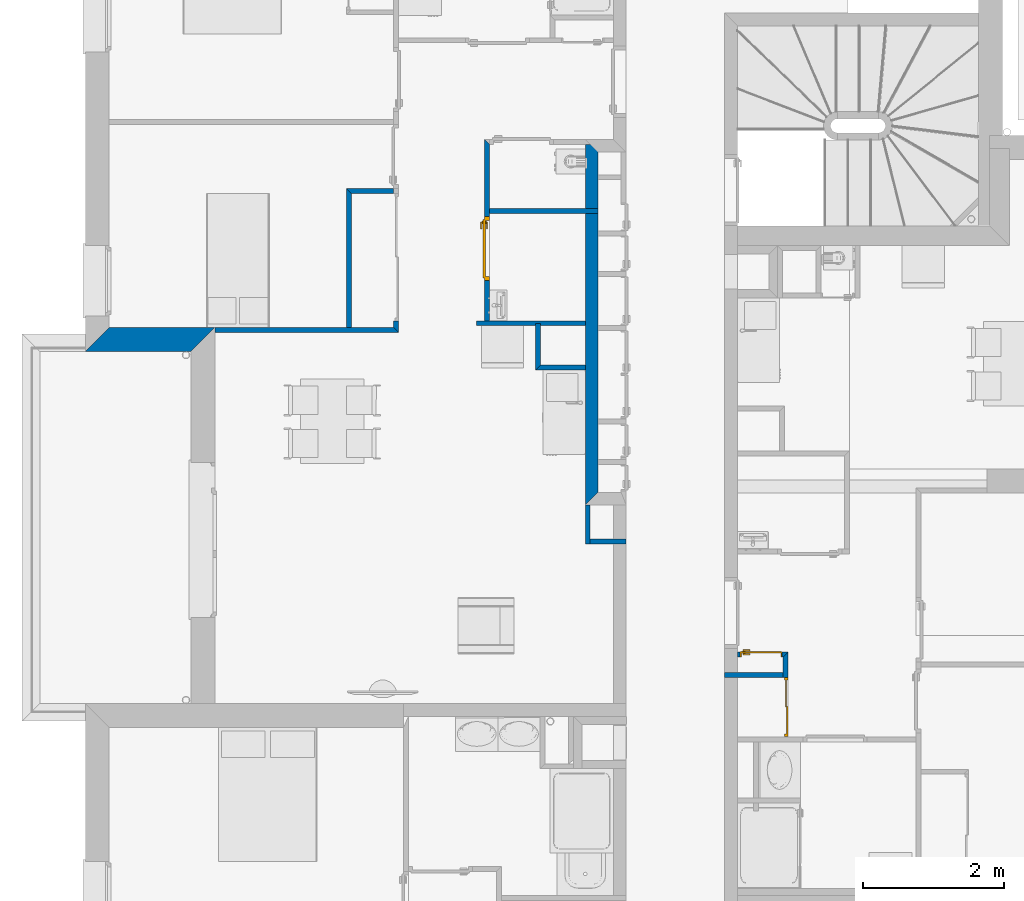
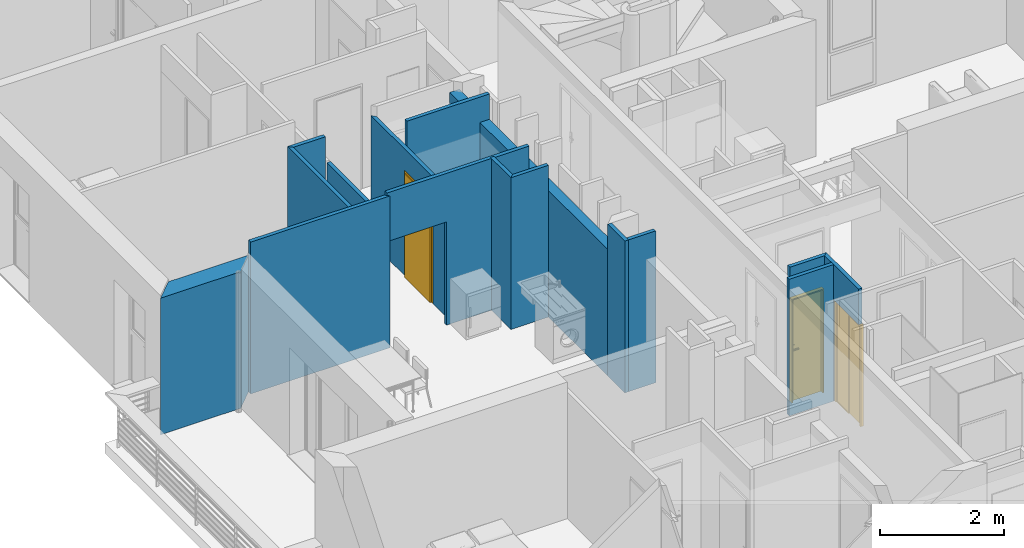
# One storey, part 21 of 164: 16 walls, 3 doors, 5 openings.
"""IFC2X3 building model written with IfcOpenShell, lengths in millimetres."""

import ifcopenshell
import ifcopenshell.guid

model = None  # the IFC model being written
_history = None  # IfcOwnerHistory: only IFC2X3 demands one
_inside = {}  # id of a spatial element -> (the spatial element, [elements in it])
_under = {}  # id of a project, library or spatial element -> (it, [spatial elements below it])
_declared = {}  # id of a project -> (the project, [libraries it declares])
_typed = {}  # id of a type object -> (the type object, [elements of that type])
_made_of = {}  # id of a material, layer set ... -> (it, [elements and type objects made of it])


def new_model(schema):
    """Start an empty IFC model of exactly this schema.

    Asked for "IFC4X3", IfcOpenShell would pick the latest addendum, in which some entities
    have other attributes; the version numbers below select the first issue.
    IFC2X3 requires an IfcOwnerHistory on every rooted entity: one is made here for all.
    """
    global model, _history
    if schema == "IFC4X3":
        model = ifcopenshell.file(schema_version=(4, 3, 0, 0))
    else:
        model = ifcopenshell.file(schema=schema)
    _inside.clear()
    _under.clear()
    _declared.clear()
    _typed.clear()
    _made_of.clear()
    _history = None
    if model.schema == "IFC2X3":
        org = make("IfcOrganization", Name="unknown")
        user = make(
            "IfcPersonAndOrganization",
            ThePerson=make("IfcPerson", FamilyName="unknown"),
            TheOrganization=org,
        )
        app = make(
            "IfcApplication",
            ApplicationDeveloper=org,
            Version="unknown",
            ApplicationFullName="unknown",
            ApplicationIdentifier="unknown",
        )
        _history = make(
            "IfcOwnerHistory",
            OwningUser=user,
            OwningApplication=app,
            ChangeAction="ADDED",
            CreationDate=0,
        )
    return model


def make(cls, **values):
    """One entity of the class cls with the attributes given. An attribute that is None is left unset."""
    return model.create_entity(
        cls, **{name: value for name, value in values.items() if value is not None}
    )


def entity(cls, *values):
    """Any entity or typed value of the class cls, its attributes in the order of the schema. None: left unset."""
    e = model.create_entity(cls)
    for i, value in enumerate(values):
        if value is not None:
            e[i] = value
    return e


def rooted(cls, **values):
    """An entity with a GlobalId (a new one), such as an element, a storey or a relation."""
    return make(cls, GlobalId=ifcopenshell.guid.new(), OwnerHistory=_history, **values)


def si_unit(unit_type, name, prefix=None):
    """IfcSIUnit, for example si_unit("LENGTHUNIT", "METRE", prefix="MILLI")."""
    return make("IfcSIUnit", UnitType=unit_type, Prefix=prefix, Name=name)


def converted_unit(unit_type, name, factor, base, dimensions=None, offset=None):
    """IfcConversionBasedUnit, such as the inch: factor (a typed value) times the base unit."""
    return make(
        "IfcConversionBasedUnit"
        if offset is None
        else "IfcConversionBasedUnitWithOffset",
        ConversionOffset=offset,
        Dimensions=None
        if dimensions is None
        else entity("IfcDimensionalExponents", *dimensions),
        UnitType=unit_type,
        Name=name,
        ConversionFactor=make(
            "IfcMeasureWithUnit", ValueComponent=factor, UnitComponent=base
        ),
    )


def derived_unit(unit_type, elements):
    """IfcDerivedUnit: a product of units, each with its exponent."""
    return make(
        "IfcDerivedUnit",
        Elements=[
            make("IfcDerivedUnitElement", Unit=unit, Exponent=power)
            for unit, power in elements
        ],
        UnitType=unit_type,
    )


def money_unit(currency):
    """IfcMonetaryUnit."""
    return make("IfcMonetaryUnit", Currency=currency)


def assignment(units):
    """IfcUnitAssignment: the units of a project."""
    return None if units is None else make("IfcUnitAssignment", Units=units)


def point(xyz):
    """IfcCartesianPoint."""
    return None if xyz is None else make("IfcCartesianPoint", Coordinates=xyz)


def direction(xyz):
    """IfcDirection."""
    return None if xyz is None else make("IfcDirection", DirectionRatios=xyz)


def frame(location, z_axis=None, x_axis=None):
    """IfcAxis2Placement3D, a coordinate frame: its origin and axes. An axis left out is left unset."""
    return make(
        "IfcAxis2Placement3D",
        Location=point(location),
        Axis=direction(z_axis),
        RefDirection=direction(x_axis),
    )


def frame_2d(location, x_axis=None):
    """IfcAxis2Placement2D, a coordinate frame in the plane: its origin and x axis."""
    return make(
        "IfcAxis2Placement2D", Location=point(location), RefDirection=direction(x_axis)
    )


def origin_with_axes():
    """The frame at (0, 0, 0) with the z axis (0, 0, 1) and the x axis (1, 0, 0) written out."""
    return frame((0.0, 0.0, 0.0), z_axis=(0.0, 0.0, 1.0), x_axis=(1.0, 0.0, 0.0))


def origin_2d_with_axis():
    """The frame at (0, 0) in the plane with the x axis (1, 0) written out."""
    return frame_2d((0.0, 0.0), x_axis=(1.0, 0.0))


def place(relative_to, where):
    """IfcLocalPlacement: puts the frame where relative to a parent placement (None: the world)."""
    return make(
        "IfcLocalPlacement", PlacementRelTo=relative_to, RelativePlacement=where
    )


def context(
    kind, dimensions, precision=None, world=None, true_north=None, identifier=None
):
    """IfcGeometricRepresentationContext, for example the 3D "Model" context."""
    return make(
        "IfcGeometricRepresentationContext",
        ContextIdentifier=identifier,
        ContextType=kind,
        CoordinateSpaceDimension=dimensions,
        Precision=precision,
        WorldCoordinateSystem=world,
        TrueNorth=true_north,
    )


def subcontext(parent, identifier, kind, view, scale=None):
    """IfcGeometricRepresentationSubContext, for example "Body" below "Model"."""
    return make(
        "IfcGeometricRepresentationSubContext",
        ContextIdentifier=identifier,
        ContextType=kind,
        ParentContext=parent,
        TargetScale=scale,
        TargetView=view,
    )


def project(units=None, contexts=None):
    """IfcProject with its units and contexts."""
    return rooted(
        "IfcProject",
        Name="project",
        RepresentationContexts=contexts,
        UnitsInContext=assignment(units),
    )


def spatial(cls, under=None, at=None, **own):
    """A site, building, storey or space (cls), placed at a placement, below another one or the project."""
    s = rooted(cls, ObjectPlacement=at, **own)
    if under is not None:
        _under.setdefault(under.id(), (under, []))[1].append(s)
    return s


def polyline(points):
    """IfcPolyline through the points."""
    return make("IfcPolyline", Points=[point(p) for p in points])


def profile(cls, at=None, kind="AREA", **sizes):
    """A parametric profile (cls). Its sizes go by their IFC names, for example OverallWidth=200.0."""
    return make(cls, ProfileType=kind, Position=at, **sizes)


def rectangle(**sizes):
    """IfcRectangleProfileDef."""
    return profile("IfcRectangleProfileDef", **sizes)


def outline(outer, holes=None, kind="AREA"):
    """IfcArbitraryClosedProfileDef: a profile drawn as a closed curve; with holes, ...WithVoids."""
    if holes is None:
        return make("IfcArbitraryClosedProfileDef", ProfileType=kind, OuterCurve=outer)
    return make(
        "IfcArbitraryProfileDefWithVoids",
        ProfileType=kind,
        OuterCurve=outer,
        InnerCurves=holes,
    )


def extrude(swept, where, along, depth):
    """IfcExtrudedAreaSolid: the profile swept, set in the frame where, extruded along a direction by depth."""
    return make(
        "IfcExtrudedAreaSolid",
        SweptArea=swept,
        Position=where,
        ExtrudedDirection=direction(along),
        Depth=depth,
    )


def faces_of(points, faces, orient=None, outer=None):
    """IfcFace entities. A face is a list of loops; a loop is a list of indices into points, from 0.

    orient and outer hold one flag for each loop. By default every Orientation is true, the
    first loop of a face is its IfcFaceOuterBound and the others are IfcFaceBound.
    """
    made = []
    for i, loops in enumerate(faces):
        bounds = []
        for j, loop in enumerate(loops):
            is_outer = j == 0 if outer is None else outer[i][j]
            bounds.append(
                make(
                    "IfcFaceOuterBound" if is_outer else "IfcFaceBound",
                    Bound=make("IfcPolyLoop", Polygon=[points[k] for k in loop]),
                    Orientation=True if orient is None else orient[i][j],
                )
            )
        made.append(make("IfcFace", Bounds=bounds))
    return made


def open_shell(faces, orient=None, outer=None):
    """The faces of one IfcOpenShell. surface_model builds it on its shared points."""
    return ("IfcOpenShell", faces, orient, outer)


def faceted_brep(points, faces, orient=None, outer=None, voids=None):
    """IfcFacetedBrep: a solid bounded by flat faces; with voids (closed shells), ...WithVoids."""
    shared = [point(p) for p in points]
    hull = make("IfcClosedShell", CfsFaces=faces_of(shared, faces, orient, outer))
    if voids is None:
        return make("IfcFacetedBrep", Outer=hull)
    return make(
        "IfcFacetedBrepWithVoids",
        Outer=hull,
        Voids=[
            make(cls, CfsFaces=faces_of(shared, fs, o, b)) for cls, fs, o, b in voids
        ],
    )


def surface_model(cls, points, shells):
    """IfcFaceBasedSurfaceModel or IfcShellBasedSurfaceModel (cls): surfaces that need not close."""
    shared = [point(p) for p in points]
    made = [make(c, CfsFaces=faces_of(shared, fs, o, b)) for c, fs, o, b in shells]
    if cls == "IfcFaceBasedSurfaceModel":
        return make(cls, FbsmFaces=made)
    return make(cls, SbsmBoundary=made)


def shape(context_of_items, identifier, shape_type, items):
    """IfcShapeRepresentation: the items that make up one representation, for example the "Body"."""
    return make(
        "IfcShapeRepresentation",
        ContextOfItems=context_of_items,
        RepresentationIdentifier=identifier,
        RepresentationType=shape_type,
        Items=items,
    )


def source(mapping_origin, context_of_items, identifier, shape_type, items):
    """IfcRepresentationMap: a shape defined once, which mapped items show again and again."""
    return make(
        "IfcRepresentationMap",
        MappingOrigin=mapping_origin,
        MappedRepresentation=shape(context_of_items, identifier, shape_type, items),
    )


def transform(
    local_origin,
    x_axis=None,
    y_axis=None,
    z_axis=None,
    scale=None,
    scale2=None,
    scale3=None,
    uniform=True,
):
    """IfcCartesianTransformationOperator3D, or its non-uniform kind. x_axis, y_axis, z_axis: its Axis1, 2, 3."""
    if uniform:
        return make(
            "IfcCartesianTransformationOperator3D",
            Axis1=direction(x_axis),
            Axis2=direction(y_axis),
            LocalOrigin=point(local_origin),
            Scale=scale,
            Axis3=direction(z_axis),
        )
    return make(
        "IfcCartesianTransformationOperator3DnonUniform",
        Axis1=direction(x_axis),
        Axis2=direction(y_axis),
        LocalOrigin=point(local_origin),
        Scale=scale,
        Axis3=direction(z_axis),
        Scale2=scale2,
        Scale3=scale3,
    )


def mapped(mapping_source, mapping_target):
    """IfcMappedItem: shows the shape of a source again, moved by a transform."""
    return make(
        "IfcMappedItem", MappingSource=mapping_source, MappingTarget=mapping_target
    )


def material(Name=None, Category=None):
    """IfcMaterial."""
    return make("IfcMaterial", Name=Name, Category=Category)


def layer(
    of_material, thickness, ventilated=None, Name=None, Category=None, Priority=None
):
    """IfcMaterialLayer: one layer of a wall or slab, of a material (None: an air gap)."""
    return make(
        "IfcMaterialLayer",
        Material=of_material,
        LayerThickness=thickness,
        IsVentilated=ventilated,
        Name=Name,
        Category=Category,
        Priority=Priority,
    )


def layer_set(layers, Name=None):
    """IfcMaterialLayerSet."""
    return make("IfcMaterialLayerSet", MaterialLayers=layers, LayerSetName=Name)


def layer_usage(for_layer_set, set_direction, sense, offset, extent=None):
    """IfcMaterialLayerSetUsage: how a layer set lies in its element."""
    return make(
        "IfcMaterialLayerSetUsage",
        ForLayerSet=for_layer_set,
        LayerSetDirection=set_direction,
        DirectionSense=sense,
        OffsetFromReferenceLine=offset,
        ReferenceExtent=extent,
    )


def made_of(thing, what):
    """Note that an element or type object is made of a material, layer set ...; save() writes the relation."""
    if what is not None:
        _made_of.setdefault(what.id(), (what, []))[1].append(thing)
    return thing


def type_object(cls, material=None, **own):
    """A type object (cls), such as IfcWallType, which elements share."""
    return made_of(rooted(cls, **own), material)


def element(
    cls,
    number,
    at=None,
    inside=None,
    cuts=None,
    type_object=None,
    material=None,
    context=None,
    identifier="Body",
    shape_type=None,
    held_by="IfcProductDefinitionShape",
    body=None,
    shapes=None,
    **own,
):
    """One element of the class cls, such as IfcWall. Its Tag is "e" and its number.

    at: its placement. inside: the storey or other place that contains it. cuts: it is an
    opening in that element (IfcRelVoidsElement). A single representation is given by context,
    identifier, shape_type and body (its items); several are given by shapes. held_by: the class
    of the entity that holds the representations. save() writes the other relations.
    """
    e = rooted(cls, Tag="e%d" % number, ObjectPlacement=at, **own)
    if body is not None:
        shapes = [shape(context, identifier, shape_type, body)]
    if shapes is not None:
        e.Representation = make(held_by, Representations=shapes)
    if inside is not None:
        _inside.setdefault(inside.id(), (inside, []))[1].append(e)
    if cuts is not None:
        rooted(
            "IfcRelVoidsElement", RelatingBuildingElement=cuts, RelatedOpeningElement=e
        )
    if type_object is not None:
        _typed.setdefault(type_object.id(), (type_object, []))[1].append(e)
    return made_of(e, material)


def fill(opening, filler):
    """IfcRelFillsElement: the door or window that sits in an opening."""
    return rooted(
        "IfcRelFillsElement",
        RelatingOpeningElement=opening,
        RelatedBuildingElement=filler,
    )


def aggregate(whole, parts):
    """IfcRelAggregates: a whole, such as a stair, and the parts it consists of."""
    return rooted("IfcRelAggregates", RelatingObject=whole, RelatedObjects=parts)


def save(model, path):
    """Write the relations noted so far, then the file.

    IfcRelAggregates (storeys below a building ...), IfcRelContainedInSpatialStructure (elements
    in a storey), IfcRelDefinesByType, IfcRelAssociatesMaterial and IfcRelDeclares: one each for
    every whole, place, type object, material and project.
    """
    for whole, parts in _under.values():
        aggregate(whole, parts)
    for where, things in _inside.values():
        rooted(
            "IfcRelContainedInSpatialStructure",
            RelatedElements=things,
            RelatingStructure=where,
        )
    for kind, things in _typed.values():
        rooted("IfcRelDefinesByType", RelatedObjects=things, RelatingType=kind)
    for what, things in _made_of.values():
        rooted("IfcRelAssociatesMaterial", RelatedObjects=things, RelatingMaterial=what)
    for by, libraries in _declared.values():
        rooted("IfcRelDeclares", RelatingContext=by, RelatedDefinitions=libraries)
    model.write(path)


model = new_model("IFC2X3")

# Units and contexts
model_context = context("Model", 3, precision=0.01, world=origin_with_axes(), true_north=direction((0.0, 1.0)))
body_context = subcontext(model_context, "Body", "Model", "MODEL_VIEW")
ifc_project = project(units=[si_unit("LENGTHUNIT", "METRE", prefix="MILLI"), si_unit("AREAUNIT", "SQUARE_METRE"), si_unit("VOLUMEUNIT", "CUBIC_METRE"), converted_unit("PLANEANGLEUNIT", "DEGREE", entity("IfcPlaneAngleMeasure", 0.0174532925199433), si_unit("PLANEANGLEUNIT", "RADIAN"), dimensions=[0, 0, 0, 0, 0, 0, 0]), money_unit("USD"), converted_unit("TIMEUNIT", "Year", entity("IfcTimeMeasure", 31557600.0), si_unit("TIMEUNIT", "SECOND"), dimensions=[0, 0, 1, 0, 0, 0, 0]), si_unit("MASSUNIT", "GRAM", prefix="KILO"), si_unit("THERMODYNAMICTEMPERATUREUNIT", "DEGREE_CELSIUS"), si_unit("LUMINOUSINTENSITYUNIT", "LUMEN"), si_unit("ENERGYUNIT", "JOULE", prefix="MEGA"), derived_unit("THERMALCONDUCTANCEUNIT", [(si_unit("POWERUNIT", "WATT"), 1), (si_unit("LENGTHUNIT", "METRE"), -1), (si_unit("THERMODYNAMICTEMPERATUREUNIT", "KELVIN"), -1)]), derived_unit("SPECIFICHEATCAPACITYUNIT", [(si_unit("ENERGYUNIT", "JOULE"), 1), (si_unit("MASSUNIT", "GRAM", prefix="KILO"), -1), (si_unit("THERMODYNAMICTEMPERATUREUNIT", "KELVIN"), -1)]), derived_unit("MASSDENSITYUNIT", [(si_unit("MASSUNIT", "GRAM", prefix="KILO"), 1), (si_unit("VOLUMEUNIT", "CUBIC_METRE"), -1)])], contexts=[model_context])

# Site, building, storey
site_placement = place(None, origin_with_axes())
site = spatial("IfcSite", under=ifc_project, at=site_placement, Name="Site", CompositionType="ELEMENT")
building_placement = place(site_placement, origin_with_axes())
building = spatial("IfcBuilding", under=site, at=building_placement, Name="Bâtiment", CompositionType="ELEMENT")
storey_placement = place(building_placement, frame((0.0, 0.0, 5750.0), z_axis=(0.0, 0.0, 1.0), x_axis=(1.0, 0.0, 0.0)))
storey = spatial("IfcBuildingStorey", under=building, at=storey_placement, Name="Etage1", CompositionType="ELEMENT", Elevation=5750.0)

# Walls
ifc_material_1 = material(Name="Parpaing 314940890")
ifc_layer_1 = layer(ifc_material_1, 180.0, ventilated="UNKNOWN")
ifc_layer_set_1 = layer_set([ifc_layer_1], Name="Beton  18 0018356637")
ifc_layer_usage_1 = layer_usage(ifc_layer_set_1, "AXIS2", "POSITIVE", 0.0)
wall_type_1 = type_object("IfcWallType", Name="Beton  18 0018356637 180", PredefinedType="NOTDEFINED")
wall_1_placement = place(storey_placement, frame((2223732.400120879, -636007.2981221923, 0.0), z_axis=(0.0, 0.0, 1.0), x_axis=(0.0, -1.0, 0.0)))
element("IfcWallStandardCase", 1, at=wall_1_placement, inside=storey, type_object=wall_type_1, material=ifc_layer_usage_1, Name="Mur-142", context=body_context, shape_type="SweptSolid", body=[
    extrude(outline(polyline([(69.99998401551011, 0.0), (5189.440402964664, 0.0), (5009.440853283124, 179.99999999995), (69.99998897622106, 179.99999999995), (69.99998401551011, 0.0)])), origin_with_axes(), (0.0, 0.0, 1.0), 2500.000000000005),
])
ifc_material_2 = material(Name="Hachure solide 268963992")
ifc_layer_2 = layer(ifc_material_2, 70.0, ventilated="UNKNOWN")
ifc_layer_set_2 = layer_set([ifc_layer_2], Name="Cloison 70 0826278243")
ifc_layer_usage_2 = layer_usage(ifc_layer_set_2, "AXIS2", "POSITIVE", -70.0)
wall_type_2 = type_object("IfcWallType", Name="Cloison 70 0826278243 70", PredefinedType="NOTDEFINED")
wall_2_placement = place(storey_placement, frame((2223912.399953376, -637057.2977132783, 0.0), z_axis=(0.0, 0.0, 1.0), x_axis=(-0.9999999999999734, -2.308105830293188e-07, 0.0)))
element("IfcWallStandardCase", 2, at=wall_2_placement, inside=storey, type_object=wall_type_2, material=ifc_layer_usage_2, Name="Mur-149", context=body_context, shape_type="SweptSolid", body=[
    extrude(outline(polyline([(0.0, -69.99999999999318), (1540.000939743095, -69.99999999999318), (1540.000972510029, 0.0), (0.0, 0.0), (0.0, -69.99999999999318)])), origin_with_axes(), (0.0, 0.0, 1.0), 3000.0),
])
ifc_layer_usage_3 = layer_usage(ifc_layer_set_2, "AXIS2", "NEGATIVE", 70.0)
wall_3_placement = place(storey_placement, frame((2223732.39994469, -639210.3527972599, 0.0), z_axis=(0.0, 0.0, 1.0), x_axis=(-1.0, 0.0, 0.0)))
element("IfcWallStandardCase", 3, at=wall_3_placement, inside=storey, type_object=wall_type_2, material=ifc_layer_usage_3, Name="Mur-149", context=body_context, shape_type="SweptSolid", body=[
    extrude(outline(polyline([(-0.0001761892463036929, 0.0), (633.2512650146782, 0.0), (703.2512650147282, 69.99999999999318), (-0.0001761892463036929, 69.99999999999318), (-0.0001761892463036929, 0.0)])), origin_with_axes(), (0.0, 0.0, 1.0), 3000.0),
])
ifc_layer_usage_4 = layer_usage(ifc_layer_set_2, "AXIS2", "NEGATIVE", 70.0)
wall_4_placement = place(storey_placement, frame((2221010.880277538, -638676.8076992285, 0.0), z_axis=(0.0, 0.0, 1.0), x_axis=(-1.0, 0.0, 0.0)))
element("IfcWallStandardCase", 4, at=wall_4_placement, inside=storey, type_object=wall_type_2, material=ifc_layer_usage_4, Name="Mur-149", context=body_context, shape_type="SweptSolid", body=[
    extrude(outline(polyline([(0.0, 0.0), (2536.560738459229, 0.0), (2536.560738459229, 69.99999999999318), (-69.99998200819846, 69.99999999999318), (0.0, 0.0)])), origin_with_axes(), (0.0, 0.0, 1.0), 3000.0),
])

# Wall, opening
ifc_layer_usage_5 = layer_usage(ifc_layer_set_2, "AXIS2", "POSITIVE", -70.0)
wall_5_placement = place(storey_placement, frame((2223732.399970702, -638652.0258613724, 0.0), z_axis=(0.0, 0.0, 1.0), x_axis=(-0.9999999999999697, 2.461209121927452e-07, 0.0)))
wall_5 = element("IfcWallStandardCase", 5, at=wall_5_placement, inside=storey, type_object=wall_type_2, material=ifc_layer_usage_5, Name="Mur-149", context=body_context, shape_type="SweptSolid", body=[
    extrude(outline(polyline([(-0.0001329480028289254, -69.99999999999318), (2651.519686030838, -69.99999999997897), (2651.519686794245, 0.0), (-0.0001501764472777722, 0.0), (-0.0001329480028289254, -69.99999999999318)])), origin_with_axes(), (0.0, 0.0, 1.0), 3000.0),
])
opening_1_placement = place(wall_5_placement, frame((2097.555926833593, 0.0, 0.0), z_axis=(0.0, 0.0, 1.0), x_axis=(1.0, 0.0, 0.0)))
element("IfcOpeningElement", 6, at=opening_1_placement, cuts=wall_5, Name="Por-278", context=body_context, shape_type="SweptSolid", body=[
    extrude(rectangle(XDim=1107.927519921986, YDim=2040.0, at=origin_2d_with_axis()), frame((-1.13686837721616e-10, 0.0, 1020.0), z_axis=(0.0, -1.0, 0.0), x_axis=(1.0, 0.0, 0.0)), (0.0, 0.0, -1.0), 70.0),
    extrude(rectangle(XDim=1107.927519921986, YDim=2040.0, at=origin_2d_with_axis()), frame((-1.13686837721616e-10, 0.0, 1020.0), z_axis=(0.0, 1.0, 0.0), x_axis=(1.0, 0.0, 0.0)), (0.0, 0.0, -1.0), 70.0),
])

# Wall, opening, door
ifc_layer_usage_6 = layer_usage(ifc_layer_set_2, "AXIS2", "POSITIVE", -70.0)
wall_6_placement = place(storey_placement, frame((2222302.398602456, -638652.0255094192, 0.0), z_axis=(0.0, 0.0, 1.0), x_axis=(2.372877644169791e-07, 0.9999999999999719, 0.0)))
wall_6 = element("IfcWallStandardCase", 7, at=wall_6_placement, inside=storey, type_object=wall_type_2, material=ifc_layer_usage_6, Name="Mur-149", context=body_context, shape_type="SweptSolid", body=[
    extrude(outline(polyline([(69.99999938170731, -69.99999999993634), (2574.727457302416, -70.00000000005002), (2644.727442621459, 0.0), (70.0000000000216, 1.13686837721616e-10), (69.99999938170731, -69.99999999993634)])), origin_with_axes(), (0.0, 0.0, 1.0), 2500.000000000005),
])
opening_2_placement = place(wall_6_placement, frame((1095.77973527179, -1.13686837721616e-10, 0.0), z_axis=(0.0, 0.0, 1.0), x_axis=(1.0, 0.0, 0.0)))
opening_2 = element("IfcOpeningElement", 8, at=opening_2_placement, cuts=wall_6, Name="Por-278", context=body_context, shape_type="SweptSolid", body=[
    extrude(rectangle(XDim=910.0, YDim=2080.0, at=origin_2d_with_axis()), frame((0.0, -70.00000000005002, 1040.0), z_axis=(0.0, -1.0, 0.0), x_axis=(-1.0, 0.0, 0.0)), (0.0, 0.0, -1.0), 140.0),
])
door_style_1 = type_object("IfcDoorStyle", Name="Porte_1v", ConstructionType="NOTDEFINED", OperationType="NOTDEFINED", ParameterTakesPrecedence=False, Sizeable=False)
shared_shape_1 = source(origin_with_axes(), body_context, "Body", "Brep", [
    faceted_brep([(-454.9999999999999, 0.0, 0.0), (-454.9999999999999, 0.0, 2080.0), (454.9999999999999, 0.0, 2080.0), (454.9999999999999, 0.0, 0.0), (415.0, 0.0, 0.0), (414.9999999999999, 0.0, 2040.0), (-414.9999999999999, 0.0, 2040.0), (-415.0, 0.0, 0.0), (-454.9999999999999, -70.0, 0.0), (-454.9999999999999, -70.0, 2080.0), (454.9999999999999, -70.0, 2080.0), (454.9999999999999, -70.0, 0.0), (399.9999999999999, -70.0, 0.0), (399.9999999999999, -15.0, 0.0), (415.0, -15.0, 0.0), (414.9999999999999, -15.0, 2040.0), (-414.9999999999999, -15.0, 2040.0), (-415.0, -15.0, 0.0), (-399.9999999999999, -15.0, 0.0), (-399.9999999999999, -70.0, 0.0), (-399.9999999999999, -70.0, 2025.0), (399.9999999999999, -70.0, 2025.0), (399.9999999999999, -15.0, 2025.0), (-399.9999999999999, -15.0, 2025.0)], [[[0, 1, 2, 3, 4, 5, 6, 7]], [[8, 9, 1, 0]], [[9, 10, 2, 1]], [[10, 11, 3, 2]], [[3, 11, 12, 13, 14, 4]], [[5, 4, 14, 15]], [[6, 5, 15, 16]], [[7, 6, 16, 17]], [[0, 7, 17, 18, 19, 8]], [[19, 20, 21, 12, 11, 10, 9, 8]], [[22, 13, 12, 21]], [[17, 16, 15, 14, 13, 22, 23, 18]], [[18, 23, 20, 19]], [[23, 22, 21, 20]]]),
    faceted_brep([(350.0, -15.0, 900.0), (350.0, -15.0, 1100.0), (389.9999999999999, -15.0, 1100.0), (389.9999999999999, -15.0, 900.0), (350.0, -25.0, 900.0), (350.0, -25.0, 1100.0), (389.9999999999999, -25.0, 1100.0), (389.9999999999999, -25.0, 900.0)], [[[0, 1, 2, 3]], [[0, 4, 5, 1]], [[1, 5, 6, 2]], [[2, 6, 7, 3]], [[3, 7, 4, 0]], [[7, 6, 5, 4]]]),
    faceted_brep([(279.9999999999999, -25.0, 1000.0), (279.9999999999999, -25.0, 1020.0), (379.9999999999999, -25.0, 1020.0), (379.9999999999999, -25.0, 1000.0), (279.9999999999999, -45.0, 1000.0), (279.9999999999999, -45.0, 1020.0), (379.9999999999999, -45.0, 1020.0), (379.9999999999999, -45.0, 1000.0)], [[[0, 1, 2, 3]], [[0, 4, 5, 1]], [[1, 5, 6, 2]], [[2, 6, 7, 3]], [[3, 7, 4, 0]], [[7, 6, 5, 4]]]),
    faceted_brep([(350.0, 35.0, 900.0), (350.0, 35.0, 1100.0), (389.9999999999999, 35.0, 1100.0), (389.9999999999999, 35.0, 900.0), (350.0, 25.0, 900.0), (350.0, 25.0, 1100.0), (389.9999999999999, 25.0, 1100.0), (389.9999999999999, 25.0, 900.0)], [[[0, 1, 2, 3]], [[0, 4, 5, 1]], [[1, 5, 6, 2]], [[2, 6, 7, 3]], [[3, 7, 4, 0]], [[7, 6, 5, 4]]]),
    faceted_brep([(279.9999999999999, 55.00000000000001, 1000.0), (279.9999999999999, 55.00000000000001, 1020.0), (379.9999999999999, 55.00000000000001, 1020.0), (379.9999999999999, 55.00000000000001, 1000.0), (279.9999999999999, 35.0, 1000.0), (279.9999999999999, 35.0, 1020.0), (379.9999999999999, 35.0, 1020.0), (379.9999999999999, 35.0, 1000.0)], [[[0, 1, 2, 3]], [[0, 4, 5, 1]], [[1, 5, 6, 2]], [[2, 6, 7, 3]], [[3, 7, 4, 0]], [[7, 6, 5, 4]]]),
    faceted_brep([(415.0, 25.0, 0.0), (415.0, -15.0, 0.0), (-415.0, -15.0, 0.0), (-415.0, 25.0, 0.0), (415.0, 25.0, 2040.0), (415.0, -15.0, 2040.0), (-415.0, -15.0, 2040.0), (-415.0, 25.0, 2040.0)], [[[0, 1, 2, 3]], [[4, 5, 1, 0]], [[1, 5, 6, 2]], [[3, 2, 6, 7]], [[0, 3, 7, 4]], [[7, 6, 5, 4]]]),
])
door_1_placement = place(opening_2_placement, frame((-414.999999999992, 0.0, 0.0), z_axis=(0.0, 0.0, 1.0), x_axis=(1.0, 0.0, 0.0)))
door_1 = element("IfcDoor", 9, at=door_1_placement, inside=storey, type_object=door_style_1, Name="Por-278", OverallHeight=2040.0, OverallWidth=830.0, context=body_context, shape_type="MappedRepresentation", body=[
    mapped(shared_shape_1, transform((414.999999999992, 1.13686837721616e-10, 0.0))),
])
fill(opening_2, door_1)

# Wall
ifc_layer_usage_7 = layer_usage(ifc_layer_set_2, "AXIS2", "NEGATIVE", 70.0)
wall_7_placement = place(storey_placement, frame((2223029.148679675, -638616.7973015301, 0.0), z_axis=(0.0, 0.0, 1.0), x_axis=(0.0, -1.0, 0.0)))
element("IfcWallStandardCase", 10, at=wall_7_placement, inside=storey, type_object=wall_type_2, material=ifc_layer_usage_7, Name="Mur-149", context=body_context, shape_type="SweptSolid", body=[
    extrude(outline(polyline([(0.0, 0.0), (663.555495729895, 0.0), (593.5554957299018, 70.00000000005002), (0.0, 70.00000000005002), (0.0, 0.0)])), origin_with_axes(), (0.0, 0.0, 1.0), 3000.0),
])

# Wall, opening
ifc_layer_usage_8 = layer_usage(ifc_layer_set_2, "AXIS2", "NEGATIVE", 70.0)
wall_8_placement = place(storey_placement, frame((2221010.880755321, -636817.9291753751, 0.0), z_axis=(0.0, 0.0, 1.0), x_axis=(-2.570276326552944e-07, -0.999999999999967, 0.0)))
wall_8 = element("IfcWallStandardCase", 11, at=wall_8_placement, inside=storey, type_object=wall_type_2, material=ifc_layer_usage_8, Name="Mur-149", context=body_context, shape_type="SweptSolid", body=[
    extrude(outline(polyline([(0.0, 0.0), (1858.878523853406, 0.0), (1928.878505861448, 70.00000000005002), (0.0, 70.00000000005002), (0.0, 0.0)])), origin_with_axes(), (0.0, 0.0, 1.0), 2512.25122490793),
])
opening_3_placement = place(wall_8_placement, frame((861.2301836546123, 1.13686837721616e-10, 0.0), z_axis=(0.0, 0.0, 1.0), x_axis=(1.0, 0.0, 0.0)))
element("IfcOpeningElement", 12, at=opening_3_placement, cuts=wall_8, Name="Por-321", context=body_context, shape_type="SweptSolid", body=[
    extrude(rectangle(XDim=1805.731663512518, YDim=2000.0, at=origin_2d_with_axis()), frame((0.0, 70.00000000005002, 1000.0), z_axis=(0.0, -1.0, 0.0), x_axis=(1.0, 0.0, 0.0)), (0.0, 0.0, -1.0), 70.0),
    extrude(rectangle(XDim=1805.731663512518, YDim=2000.0, at=origin_2d_with_axis()), frame((0.0, 70.00000000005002, 1000.0), z_axis=(0.0, 1.0, 0.0), x_axis=(1.0, 0.0, 0.0)), (0.0, 0.0, -1.0), 70.0),
])

# Walls
ifc_layer_usage_9 = layer_usage(ifc_layer_set_2, "AXIS2", "NEGATIVE", 70.0)
wall_9_placement = place(storey_placement, frame((2221010.879786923, -636706.2935272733, 0.0), z_axis=(0.0, 0.0, 1.0), x_axis=(-0.9999999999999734, 2.308093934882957e-07, 0.0)))
element("IfcWallStandardCase", 13, at=wall_9_placement, inside=storey, type_object=wall_type_2, material=ifc_layer_usage_9, Name="Mur-149", context=body_context, shape_type="SweptSolid", body=[
    extrude(outline(polyline([(-0.0009970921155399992, 0.0), (669.9999999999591, 0.0), (599.9999648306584, 69.99999999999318), (-0.0009952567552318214, 70.00000000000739), (-0.0009970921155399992, 0.0)])), origin_with_axes(), (0.0, 0.0, 1.0), 3000.0),
])
ifc_layer_usage_10 = layer_usage(ifc_layer_set_2, "AXIS2", "NEGATIVE", 70.0)
wall_10_placement = place(storey_placement, frame((2220340.879786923, -636706.2933726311, 0.0), z_axis=(0.0, 0.0, 1.0), x_axis=(2.716091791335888e-07, -0.9999999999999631, 0.0)))
element("IfcWallStandardCase", 14, at=wall_10_placement, inside=storey, type_object=wall_type_2, material=ifc_layer_usage_10, Name="Mur-149", context=body_context, shape_type="SweptSolid", body=[
    extrude(outline(polyline([(0.0, 0.0), (1970.514326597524, 0.0), (1970.514345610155, 70.00000000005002), (70.00003516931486, 70.00000000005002), (0.0, 0.0)])), origin_with_axes(), (0.0, 0.0, 1.0), 3000.0),
])

# Wall, opening, door
ifc_layer_usage_11 = layer_usage(ifc_layer_set_2, "AXIS2", "POSITIVE", -70.0)
wall_11_placement = place(storey_placement, frame((2225712.313074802, -643283.0930621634, 0.0), z_axis=(0.0, 0.0, 1.0), x_axis=(0.9999999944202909, -0.0001056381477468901, 0.0)))
wall_11 = element("IfcWallStandardCase", 15, at=wall_11_placement, inside=storey, type_object=wall_type_2, material=ifc_layer_usage_11, Name="Mur-149", context=body_context, shape_type="SweptSolid", body=[
    extrude(outline(polyline([(180.012677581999, -69.99999999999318), (830.1173335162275, -69.99999999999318), (900.1173335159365, 0.0), (180.0052829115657, 0.0), (180.012677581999, -69.99999999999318)])), origin_with_axes(), (0.0, 0.0, 1.0), 2700.0),
])
opening_4_placement = place(wall_11_placement, frame((516.4323291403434, 0.0, 0.0), z_axis=(0.0, 0.0, 1.0), x_axis=(1.0, 0.0, 0.0)))
opening_4 = element("IfcOpeningElement", 16, at=opening_4_placement, cuts=wall_11, Name="Por-274", context=body_context, shape_type="SweptSolid", body=[
    extrude(rectangle(XDim=599.9999999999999, YDim=2050.0, at=origin_2d_with_axis()), frame((-1.13686837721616e-10, -69.99999999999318, 1025.0), z_axis=(0.0, 1.0, 0.0), x_axis=(1.0, 0.0, 0.0)), (0.0, 0.0, 1.0), 140.0),
])
shared_shape_2 = source(origin_with_axes(), body_context, "Body", "Brep", [
    faceted_brep([(300.0, 0.0, 0.0), (290.0, 0.0, 0.0), (290.0, 0.0, 2040.0), (-290.0, 0.0, 2040.0), (-290.0, 0.0, 0.0), (-300.0, 0.0, 0.0), (-300.0, 0.0, 2050.0), (300.0, 0.0, 2050.0), (300.0, -70.0, 0.0), (279.9999999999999, -70.0, 0.0), (279.9999999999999, -15.0, 0.0), (290.0, -15.0, 0.0), (290.0, -15.0, 2040.0), (-290.0, -15.0, 2040.0), (-290.0, -15.0, 0.0), (-279.9999999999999, -15.0, 0.0), (-279.9999999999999, -70.0, 0.0), (-300.0, -70.0, 0.0), (-300.0, -70.0, 2050.0), (300.0, -70.0, 2050.0), (-279.9999999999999, -70.0, 2030.0), (279.9999999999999, -70.0, 2030.0), (279.9999999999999, -15.0, 2030.0), (-279.9999999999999, -15.0, 2030.0)], [[[0, 1, 2, 3, 4, 5, 6, 7]], [[0, 8, 9, 10, 11, 1]], [[1, 11, 12, 2]], [[2, 12, 13, 3]], [[3, 13, 14, 4]], [[5, 4, 14, 15, 16, 17]], [[18, 6, 5, 17]], [[19, 7, 6, 18]], [[8, 0, 7, 19]], [[9, 8, 19, 18, 17, 16, 20, 21]], [[10, 9, 21, 22]], [[11, 10, 22, 23, 15, 14, 13, 12]], [[23, 20, 16, 15]], [[22, 21, 20, 23]]]),
    faceted_brep([(-224.9999999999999, -15.0, 900.0), (-264.9999999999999, -15.0, 900.0), (-264.9999999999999, -15.0, 1100.0), (-224.9999999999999, -15.0, 1100.0), (-224.9999999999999, -25.0, 900.0), (-264.9999999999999, -25.0, 900.0), (-264.9999999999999, -25.0, 1100.0), (-224.9999999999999, -25.0, 1100.0)], [[[0, 1, 2, 3]], [[1, 0, 4, 5]], [[2, 1, 5, 6]], [[3, 2, 6, 7]], [[0, 3, 7, 4]], [[5, 4, 7, 6]]]),
    faceted_brep([(-154.9999999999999, -25.0, 1000.0), (-254.9999999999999, -25.0, 1000.0), (-254.9999999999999, -25.0, 1020.0), (-154.9999999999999, -25.0, 1020.0), (-154.9999999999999, -45.0, 1000.0), (-254.9999999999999, -45.0, 1000.0), (-254.9999999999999, -45.0, 1020.0), (-154.9999999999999, -45.0, 1020.0)], [[[0, 1, 2, 3]], [[1, 0, 4, 5]], [[2, 1, 5, 6]], [[3, 2, 6, 7]], [[0, 3, 7, 4]], [[5, 4, 7, 6]]]),
    faceted_brep([(-224.9999999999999, 15.0, 900.0), (-264.9999999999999, 15.0, 900.0), (-264.9999999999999, 15.0, 1100.0), (-224.9999999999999, 15.0, 1100.0), (-224.9999999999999, 5.000000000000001, 900.0), (-264.9999999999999, 5.000000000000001, 900.0), (-264.9999999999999, 5.000000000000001, 1100.0), (-224.9999999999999, 5.000000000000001, 1100.0)], [[[0, 1, 2, 3]], [[1, 0, 4, 5]], [[2, 1, 5, 6]], [[3, 2, 6, 7]], [[0, 3, 7, 4]], [[5, 4, 7, 6]]]),
    faceted_brep([(-154.9999999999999, 35.0, 1000.0), (-254.9999999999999, 35.0, 1000.0), (-254.9999999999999, 35.0, 1020.0), (-154.9999999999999, 35.0, 1020.0), (-154.9999999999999, 15.0, 1000.0), (-254.9999999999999, 15.0, 1000.0), (-254.9999999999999, 15.0, 1020.0), (-154.9999999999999, 15.0, 1020.0)], [[[0, 1, 2, 3]], [[1, 0, 4, 5]], [[2, 1, 5, 6]], [[3, 2, 6, 7]], [[0, 3, 7, 4]], [[5, 4, 7, 6]]]),
    faceted_brep([(-290.0, 5.000000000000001, 0.0), (290.0, 5.000000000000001, 0.0), (290.0, -15.0, 0.0), (-290.0, -15.0, 0.0), (-290.0, 5.000000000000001, 2040.0), (290.0, 5.000000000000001, 2040.0), (290.0, -15.0, 2040.0), (-290.0, -15.0, 2040.0)], [[[0, 1, 2, 3]], [[0, 4, 5, 1]], [[1, 5, 6, 2]], [[3, 2, 6, 7]], [[4, 0, 3, 7]], [[5, 4, 7, 6]]]),
])
door_2_placement = place(opening_4_placement, frame((-290.0000000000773, 0.0, 0.0), z_axis=(0.0, 0.0, 1.0), x_axis=(1.0, 0.0, 0.0)))
door_2 = element("IfcDoor", 17, at=door_2_placement, inside=storey, type_object=door_style_1, Name="Por-274", OverallHeight=2040.0, OverallWidth=580.0, context=body_context, shape_type="MappedRepresentation", body=[
    mapped(shared_shape_2, transform((290.0000000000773, 0.0, 0.0))),
])
fill(opening_4, door_2)

ifc_layer_usage_12 = layer_usage(ifc_layer_set_2, "AXIS2", "POSITIVE", -70.0)
wall_12_placement = place(storey_placement, frame((2226612.430403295, -643283.1881488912, 0.0), z_axis=(0.0, 0.0, 1.0), x_axis=(-0.0001056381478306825, -0.9999999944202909, 0.0)))
wall_12 = element("IfcWallStandardCase", 18, at=wall_12_placement, inside=storey, type_object=wall_type_2, material=ifc_layer_usage_12, Name="Mur-149", context=body_context, shape_type="SweptSolid", body=[
    extrude(outline(polyline([(69.99999999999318, -69.99999999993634), (1163.34269268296, -69.99999999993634), (1163.34269268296, 0.0), (0.0, 0.0), (69.99999999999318, -69.99999999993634)])), origin_with_axes(), (0.0, 0.0, 1.0), 2700.0),
])
opening_5_placement = place(wall_12_placement, frame((781.671346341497, 0.0, 0.0), z_axis=(0.0, 0.0, 1.0), x_axis=(1.0, 0.0, 0.0)))
opening_5 = element("IfcOpeningElement", 19, at=opening_5_placement, cuts=wall_12, Name="Por-321", context=body_context, shape_type="SweptSolid", body=[
    extrude(rectangle(XDim=843.3426926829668, YDim=2000.0, at=origin_2d_with_axis()), frame((0.0, 0.0, 1000.0), z_axis=(0.0, -1.0, 0.0), x_axis=(1.0, 0.0, 0.0)), (0.0, 0.0, -1.0), 70.0),
    extrude(rectangle(XDim=843.3426926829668, YDim=2000.0, at=origin_2d_with_axis()), frame((0.0, 0.0, 1000.0), z_axis=(0.0, 1.0, 0.0), x_axis=(1.0, 0.0, 0.0)), (0.0, 0.0, -1.0), 70.0),
])
door_style_2 = type_object("IfcDoorStyle", ConstructionType="NOTDEFINED", OperationType="NOTDEFINED", ParameterTakesPrecedence=False, Sizeable=False)
shared_shape_3 = source(origin_with_axes(), body_context, "Body", "SurfaceModel", [
    faceted_brep([(421.6713463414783, 0.0, 0.0), (381.6713463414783, 0.0, 0.0), (381.6713463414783, 0.0, 1960.0), (-381.6713463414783, 0.0, 1960.0), (-381.6713463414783, 0.0, 0.0), (-421.6713463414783, 0.0, 0.0), (-421.6713463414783, 0.0, 2000.0), (421.6713463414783, 0.0, 2000.0), (421.6713463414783, -50.0, 0.0), (381.6713463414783, -50.0, 0.0), (381.6713463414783, -10.0, 0.0), (381.6713463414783, -10.0, 1960.0), (-381.6713463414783, -10.0, 1960.0), (-381.6713463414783, -10.0, 0.0), (-381.6713463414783, -50.0, 0.0), (-421.6713463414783, -50.0, 0.0), (-421.6713463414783, -50.0, 2000.0), (421.6713463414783, -50.0, 2000.0), (-381.6713463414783, -50.0, 1960.0), (381.6713463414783, -50.0, 1960.0)], [[[0, 1, 2, 3, 4, 5, 6, 7]], [[0, 8, 9, 10, 1]], [[1, 10, 11, 2]], [[2, 11, 12, 3]], [[3, 12, 13, 4]], [[5, 4, 13, 14, 15]], [[16, 6, 5, 15]], [[17, 7, 6, 16]], [[8, 0, 7, 17]], [[9, 8, 17, 16, 15, 14, 18, 19]], [[10, 9, 19, 11]], [[11, 19, 18, 12]], [[12, 18, 14, 13]]]),
    faceted_brep([(-381.6713463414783, -20.0, 0.0), (0.0, -20.0, 0.0), (0.0, -40.0, 0.0), (-381.6713463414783, -40.0, 0.0), (-381.6713463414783, -20.0, 1960.0), (0.0, -20.0, 1960.0), (-361.6713463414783, -20.0, 20.0), (-19.99999999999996, -20.0, 20.0), (-19.99999999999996, -20.0, 1940.0), (-361.6713463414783, -20.0, 1940.0), (0.0, -40.0, 1960.0), (-381.6713463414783, -40.0, 1960.0), (-361.6713463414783, -40.0, 20.0), (-361.6713463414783, -40.0, 1940.0), (-19.99999999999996, -40.0, 1940.0), (-19.99999999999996, -40.0, 20.0)], [[[0, 1, 2, 3]], [[0, 4, 5, 1], [6, 7, 8, 9]], [[1, 5, 10, 2]], [[3, 2, 10, 11], [12, 13, 14, 15]], [[4, 0, 3, 11]], [[5, 4, 11, 10]], [[7, 6, 12, 15]], [[8, 7, 15, 14]], [[9, 8, 14, 13]], [[6, 9, 13, 12]]]),
    surface_model("IfcShellBasedSurfaceModel", [(-361.6713463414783, -30.0, 20.0), (-19.99999999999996, -30.0, 20.0), (-19.99999999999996, -30.0, 1940.0), (-361.6713463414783, -30.0, 1940.0)], [open_shell([[[0, 1, 2, 3]]])]),
    faceted_brep([(-5.000000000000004, 0.0, 0.0), (381.6713463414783, 0.0, 0.0), (381.6713463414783, -20.0, 0.0), (-5.000000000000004, -20.0, 0.0), (-5.000000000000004, 0.0, 1960.0), (381.6713463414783, 0.0, 1960.0), (381.6713463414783, -20.0, 1960.0), (-5.000000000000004, -20.0, 1960.0)], [[[0, 1, 2, 3]], [[0, 4, 5, 1]], [[1, 5, 6, 2]], [[3, 2, 6, 7]], [[4, 0, 3, 7]], [[5, 4, 7, 6]]]),
])
door_3_placement = place(opening_5_placement, frame((-421.6713463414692, -2.273736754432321e-10, 0.0), z_axis=(0.0, 0.0, 1.0), x_axis=(1.0, 0.0, 0.0)))
door_3 = element("IfcDoor", 20, at=door_3_placement, inside=storey, type_object=door_style_2, Name="Por-321", OverallHeight=2000.0, OverallWidth=843.343, context=body_context, shape_type="MappedRepresentation", body=[
    mapped(shared_shape_3, transform((421.6713463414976, 1.13686837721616e-10, 0.0))),
])
fill(opening_5, door_3)

# Walls
ifc_layer_usage_13 = layer_usage(ifc_layer_set_2, "AXIS2", "POSITIVE", -70.0)
wall_13_placement = place(storey_placement, frame((2225712.282439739, -643573.0930605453, 0.0), z_axis=(0.0, 0.0, 1.0), x_axis=(0.9999999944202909, -0.0001056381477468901, 0.0)))
element("IfcWallStandardCase", 21, at=wall_13_placement, inside=storey, type_object=wall_type_2, material=ifc_layer_usage_13, Name="Mur-149", context=body_context, shape_type="SweptSolid", body=[
    extrude(outline(polyline([(1.13686837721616e-10, -70.00000000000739), (830.1173335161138, -69.99999999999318), (830.1173335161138, 0.0), (0.0, 0.0), (1.13686837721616e-10, -70.00000000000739)])), origin_with_axes(), (0.0, 0.0, 1.0), 2700.0),
])
ifc_layer_usage_14 = layer_usage(ifc_layer_set_2, "AXIS2", "NEGATIVE", 0.0)
wall_14_placement = place(storey_placement, frame((2223732.413331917, -641750.3527776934, 0.0), z_axis=(0.0, 0.0, 1.0), x_axis=(-2.386325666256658e-05, 0.9999999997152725, 0.0)))
element("IfcWallStandardCase", 22, at=wall_14_placement, inside=storey, type_object=wall_type_2, material=ifc_layer_usage_14, Name="Mur-121", context=body_context, shape_type="SweptSolid", body=[
    extrude(outline(polyline([(0.0, -70.00000000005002), (553.612407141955, -69.99999999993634), (553.6142526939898, 0.0), (0.0, 0.0), (0.0, -70.00000000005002)])), origin_with_axes(), (0.0, 0.0, 1.0), 3000.0),
])
ifc_layer_usage_15 = layer_usage(ifc_layer_set_2, "AXIS2", "POSITIVE", 0.0)
wall_15_placement = place(storey_placement, frame((2224312.402223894, -641680.3202127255, 0.0), z_axis=(0.0, 0.0, 1.0), x_axis=(-0.9999999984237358, -5.6147381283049e-05, 0.0)))
element("IfcWallStandardCase", 23, at=wall_15_placement, inside=storey, type_object=wall_type_2, material=ifc_layer_usage_15, Name="Mur-121", context=body_context, shape_type="SweptSolid", body=[
    extrude(outline(polyline([(0.0, 0.0), (509.9905632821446, 0.0), (509.9928231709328, 69.99999999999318), (1.13686837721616e-10, 69.99999999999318), (0.0, 0.0)])), origin_with_axes(), (0.0, 0.0, 1.0), 3000.0),
])
ifc_material_3 = material(Name="Parpaing 312445824")
ifc_layer_3 = layer(ifc_material_3, 180.0, ventilated="UNKNOWN")
ifc_material_4 = material(Name="Isolant styromousse 301821074")
ifc_layer_4 = layer(ifc_material_4, 160.0, ventilated="UNKNOWN")
ifc_layer_set_3 = layer_set([ifc_layer_3, ifc_layer_4], Name="isol int 18+16 0018356637")
ifc_layer_usage_16 = layer_usage(ifc_layer_set_3, "AXIS2", "POSITIVE", 0.0)
wall_type_3 = type_object("IfcWallType", Name="isol int 18+16 0018356637 340", PredefinedType="NOTDEFINED")
wall_16_placement = place(storey_placement, frame((2216634.31405057, -639016.8076992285, 0.0), z_axis=(0.0, 0.0, 1.0), x_axis=(1.0, 0.0, 0.0)))
element("IfcWallStandardCase", 24, at=wall_16_placement, inside=storey, type_object=wall_type_3, material=ifc_layer_usage_16, Name="Mur-143", context=body_context, shape_type="SweptSolid", body=[
    extrude(outline(polyline([(-0.001773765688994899, 0.0), (1500.000000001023, 0.0), (1840.005488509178, 340.0000000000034), (339.9962231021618, 340.0000000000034), (-0.001773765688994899, 0.0)])), origin_with_axes(), (0.0, 0.0, 1.0), 2700.0),
])

save(model, "model.ifc")
